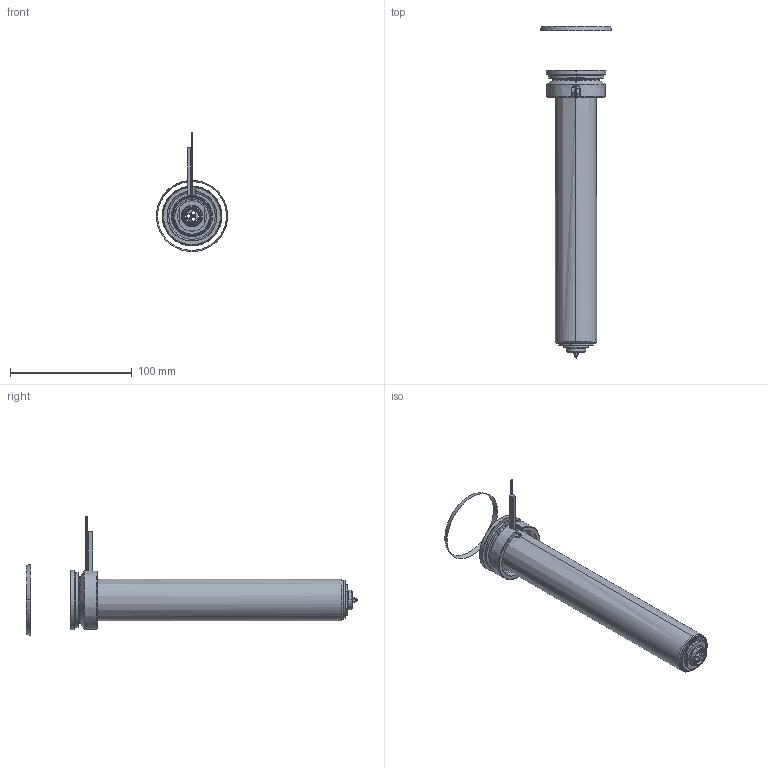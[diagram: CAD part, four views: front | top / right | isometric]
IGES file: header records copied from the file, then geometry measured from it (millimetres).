
Start section: SolidWorks IGES file using analytic representation for surfaces
Global section: file name: C:\Documents and Settings\ws-20\Desktop\TEM\UGEP5005-S-A-0 [Øf-1.55 ØC-13].IGS; native system: SolidWorks 2012; preprocessor: SolidWorks 2012; author: ws-20; date: 120426.102210; units: millimetre
Bounding box: 58.57 x 272.24 x 97.91 mm (x, y, z)
Surface area: 89076.9 mm2 (no closed solid volume)
Topology: 0 solids, 0 shells, 124 faces, 2376 edges, 2376 vertices
Faces by surface type: revolution 79, bspline 45
